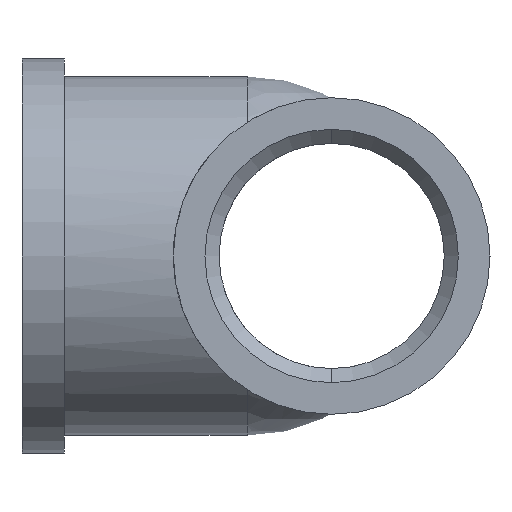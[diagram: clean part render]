
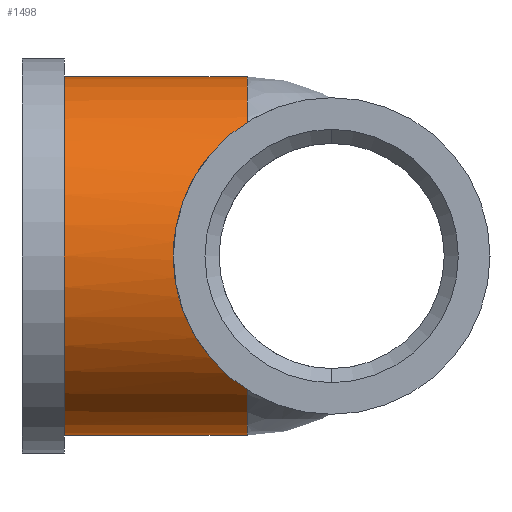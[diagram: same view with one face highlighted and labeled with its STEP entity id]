
A CAD part, left-side view. The second image highlights one B-rep face of the part: STEP entity #1498.
In plain terms, the highlighted cylindrical face has radius 12.75 mm (diameter 25.5 mm), a partial arc.
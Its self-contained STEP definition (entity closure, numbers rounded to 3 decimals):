
#4 = EDGE_CURVE ( 'NONE', #98, #2555, #738, .T. ) ;
#10 = AXIS2_PLACEMENT_3D ( 'NONE', #1318, #2861, #896 ) ;
#26 = CARTESIAN_POINT ( 'NONE',  ( -9.949, 6.442, 7.977 ) ) ;
#33 = CARTESIAN_POINT ( 'NONE',  ( 0., 6., 0. ) ) ;
#80 = CARTESIAN_POINT ( 'NONE',  ( -9.947, 6.44, -7.979 ) ) ;
#87 = DIRECTION ( 'NONE',  ( 0., 1., 0. ) ) ;
#98 = VERTEX_POINT ( 'NONE', #2355 ) ;
#115 = CARTESIAN_POINT ( 'NONE',  ( -12.533, 11.004, 2.366 ) ) ;
#120 = VERTEX_POINT ( 'NONE', #144 ) ;
#130 = CARTESIAN_POINT ( 'NONE',  ( -12.466, 10.928, 2.694 ) ) ;
#134 = ORIENTED_EDGE ( 'NONE', *, *, #821, .T. ) ;
#139 = LINE ( 'NONE', #1096, #1522 ) ;
#144 = CARTESIAN_POINT ( 'NONE',  ( 0., 6., 12.75 ) ) ;
#206 = CARTESIAN_POINT ( 'NONE',  ( -9.809, 6.225, 8.148 ) ) ;
#229 = ORIENTED_EDGE ( 'NONE', *, *, #379, .T. ) ;
#270 = CYLINDRICAL_SURFACE ( 'NONE', #10, 12.75 ) ;
#274 = CIRCLE ( 'NONE', #1557, 12.75 ) ;
#309 = CARTESIAN_POINT ( 'NONE',  ( -12.737, 11.235, 0.672 ) ) ;
#320 = CARTESIAN_POINT ( 'NONE',  ( -11.261, 9.53, 5.987 ) ) ;
#328 = CARTESIAN_POINT ( 'NONE',  ( -10.5, 8.617, -7.233 ) ) ;
#339 = CARTESIAN_POINT ( 'NONE',  ( -11.914, 10.293, 4.588 ) ) ;
#347 = VERTEX_POINT ( 'NONE', #1365 ) ;
#348 = CARTESIAN_POINT ( 'NONE',  ( -12.218, 10.643, 3.661 ) ) ;
#379 = EDGE_CURVE ( 'NONE', #2555, #1765, #2582, .T. ) ;
#405 = LINE ( 'NONE', #1163, #2174 ) ;
#406 = ORIENTED_EDGE ( 'NONE', *, *, #1347, .F. ) ;
#455 = DIRECTION ( 'NONE',  ( 0., 0., -1. ) ) ;
#456 = ORIENTED_EDGE ( 'NONE', *, *, #2351, .T. ) ;
#484 = VERTEX_POINT ( 'NONE', #1694 ) ;
#485 = EDGE_CURVE ( 'NONE', #120, #1599, #811, .T. ) ;
#500 = DIRECTION ( 'NONE',  ( 0., -1., 0. ) ) ;
#508 = EDGE_CURVE ( 'NONE', #1765, #1599, #952, .T. ) ;
#546 = CARTESIAN_POINT ( 'NONE',  ( -11.116, 9.36, -6.274 ) ) ;
#558 = CARTESIAN_POINT ( 'NONE',  ( -12.302, 10.74, -3.367 ) ) ;
#573 = CARTESIAN_POINT ( 'NONE',  ( -12.01, 10.404, -4.294 ) ) ;
#610 = AXIS2_PLACEMENT_3D ( 'NONE', #2104, #2092, #787 ) ;
#624 = VECTOR ( 'NONE', #2168, 1000. ) ;
#697 = VERTEX_POINT ( 'NONE', #767 ) ;
#705 = CARTESIAN_POINT ( 'NONE',  ( -10.225, 6.861, -7.62 ) ) ;
#715 = CARTESIAN_POINT ( 'NONE',  ( -9.67, 6., 8.31 ) ) ;
#727 = FACE_OUTER_BOUND ( 'NONE', #1119, .T. ) ;
#732 = VERTEX_POINT ( 'NONE', #1005 ) ;
#738 = B_SPLINE_CURVE_WITH_KNOTS ( 'NONE', 3,
 ( #328, #2551, #546, #2763, #805, #793, #573, #2081, #558, #1011, #2539, #765, #1234, #2319, #309, #2088, #1452, #115, #130, #1666, #348, #339, #2728, #320, #996, #774, #1418, #1879 ),
 .UNSPECIFIED., .F., .F.,
 ( 4, 2, 2, 2, 2, 2, 2, 2, 2, 2, 2, 2, 2, 4 ),
 ( 0.049, 0.051, 0.052, 0.053, 0.054, 0.055, 0.057, 0.058, 0.059, 0.06, 0.061, 0.063, 0.064, 0.065 ),
 .UNSPECIFIED. ) ;
#765 = CARTESIAN_POINT ( 'NONE',  ( -12.693, 11.186, -1.382 ) ) ;
#767 = CARTESIAN_POINT ( 'NONE',  ( -10.5, 7.263, -7.233 ) ) ;
#774 = CARTESIAN_POINT ( 'NONE',  ( -10.815, 8.999, 6.759 ) ) ;
#787 = DIRECTION ( 'NONE',  ( 0., 0., -1. ) ) ;
#793 = CARTESIAN_POINT ( 'NONE',  ( -11.898, 10.275, -4.592 ) ) ;
#799 = EDGE_CURVE ( 'NONE', #484, #732, #2101, .T. ) ;
#805 = CARTESIAN_POINT ( 'NONE',  ( -11.657, 9.994, -5.175 ) ) ;
#811 = CIRCLE ( 'NONE', #1895, 12.75 ) ;
#821 = EDGE_CURVE ( 'NONE', #697, #98, #2720, .T. ) ;
#896 = DIRECTION ( 'NONE',  ( 0., 0., -1. ) ) ;
#897 = CARTESIAN_POINT ( 'NONE',  ( -10.5, 7.263, 7.233 ) ) ;
#922 = CARTESIAN_POINT ( 'NONE',  ( -10.5, 0., 7.233 ) ) ;
#926 = CARTESIAN_POINT ( 'NONE',  ( -10.364, 7.067, 7.43 ) ) ;
#932 = CARTESIAN_POINT ( 'NONE',  ( -10.5, 7.263, -7.233 ) ) ;
#952 = B_SPLINE_CURVE_WITH_KNOTS ( 'NONE', 3,
 ( #897, #926, #1972, #26, #206, #1332 ),
 .UNSPECIFIED., .F., .F.,
 ( 4, 2, 4 ),
 ( 0.059, 0.06, 0.061 ),
 .UNSPECIFIED. ) ;
#961 = EDGE_CURVE ( 'NONE', #2476, #347, #274, .T. ) ;
#996 = CARTESIAN_POINT ( 'NONE',  ( -11.116, 9.358, 6.252 ) ) ;
#1005 = CARTESIAN_POINT ( 'NONE',  ( 0., 6., -12.75 ) ) ;
#1011 = CARTESIAN_POINT ( 'NONE',  ( -12.46, 10.921, -2.722 ) ) ;
#1021 = B_SPLINE_CURVE_WITH_KNOTS ( 'NONE', 3,
 ( #2451, #2231, #80, #705, #2242, #932 ),
 .UNSPECIFIED., .F., .F.,
 ( 4, 2, 4 ),
 ( 0.041, 0.042, 0.043 ),
 .UNSPECIFIED. ) ;
#1096 = CARTESIAN_POINT ( 'NONE',  ( 0., 0., -12.75 ) ) ;
#1119 = EDGE_LOOP ( 'NONE', ( #406, #1834, #1933, #2828, #456, #134, #2632, #229, #1227, #1719 ) ) ;
#1120 = VECTOR ( 'NONE', #87, 1000. ) ;
#1160 = CARTESIAN_POINT ( 'NONE',  ( -10.5, 8.617, 7.233 ) ) ;
#1163 = CARTESIAN_POINT ( 'NONE',  ( 0., 0., 12.75 ) ) ;
#1193 = EDGE_CURVE ( 'NONE', #347, #732, #139, .T. ) ;
#1218 = CARTESIAN_POINT ( 'NONE',  ( -10.5, 0., -7.233 ) ) ;
#1227 = ORIENTED_EDGE ( 'NONE', *, *, #508, .T. ) ;
#1234 = CARTESIAN_POINT ( 'NONE',  ( -12.749, 11.249, -0.704 ) ) ;
#1318 = CARTESIAN_POINT ( 'NONE',  ( 0., 0., 0. ) ) ;
#1332 = CARTESIAN_POINT ( 'NONE',  ( -9.67, 6., 8.31 ) ) ;
#1347 = EDGE_CURVE ( 'NONE', #2476, #120, #405, .T. ) ;
#1365 = CARTESIAN_POINT ( 'NONE',  ( 0., 19., -12.75 ) ) ;
#1418 = CARTESIAN_POINT ( 'NONE',  ( -10.66, 8.812, 7.001 ) ) ;
#1452 = CARTESIAN_POINT ( 'NONE',  ( -12.641, 11.126, 1.699 ) ) ;
#1498 = ADVANCED_FACE ( 'NONE', ( #727 ), #270, .T. ) ;
#1522 = VECTOR ( 'NONE', #1525, 1000. ) ;
#1525 = DIRECTION ( 'NONE',  ( 0., -1., 0. ) ) ;
#1557 = AXIS2_PLACEMENT_3D ( 'NONE', #1838, #500, #2722 ) ;
#1599 = VERTEX_POINT ( 'NONE', #715 ) ;
#1666 = CARTESIAN_POINT ( 'NONE',  ( -12.309, 10.748, 3.341 ) ) ;
#1694 = CARTESIAN_POINT ( 'NONE',  ( -9.67, 6., -8.31 ) ) ;
#1719 = ORIENTED_EDGE ( 'NONE', *, *, #485, .F. ) ;
#1765 = VERTEX_POINT ( 'NONE', #1830 ) ;
#1767 = DIRECTION ( 'NONE',  ( 0., -1., 0. ) ) ;
#1830 = CARTESIAN_POINT ( 'NONE',  ( -10.5, 7.263, 7.233 ) ) ;
#1834 = ORIENTED_EDGE ( 'NONE', *, *, #961, .T. ) ;
#1838 = CARTESIAN_POINT ( 'NONE',  ( 0., 19., 0. ) ) ;
#1867 = CARTESIAN_POINT ( 'NONE',  ( 0., 19., 12.75 ) ) ;
#1879 = CARTESIAN_POINT ( 'NONE',  ( -10.5, 8.617, 7.233 ) ) ;
#1895 = AXIS2_PLACEMENT_3D ( 'NONE', #33, #2213, #455 ) ;
#1933 = ORIENTED_EDGE ( 'NONE', *, *, #1193, .T. ) ;
#1972 = CARTESIAN_POINT ( 'NONE',  ( -10.226, 6.863, 7.618 ) ) ;
#2081 = CARTESIAN_POINT ( 'NONE',  ( -12.211, 10.636, -3.681 ) ) ;
#2088 = CARTESIAN_POINT ( 'NONE',  ( -12.682, 11.173, 1.361 ) ) ;
#2092 = DIRECTION ( 'NONE',  ( 0., -1., 0. ) ) ;
#2101 = CIRCLE ( 'NONE', #610, 12.75 ) ;
#2104 = CARTESIAN_POINT ( 'NONE',  ( 0., 6., 0. ) ) ;
#2168 = DIRECTION ( 'NONE',  ( 0., -1., 0. ) ) ;
#2174 = VECTOR ( 'NONE', #1767, 1000. ) ;
#2213 = DIRECTION ( 'NONE',  ( 0., -1., 0. ) ) ;
#2231 = CARTESIAN_POINT ( 'NONE',  ( -9.808, 6.223, -8.149 ) ) ;
#2242 = CARTESIAN_POINT ( 'NONE',  ( -10.363, 7.065, -7.431 ) ) ;
#2319 = CARTESIAN_POINT ( 'NONE',  ( -12.75, 11.251, 0.325 ) ) ;
#2351 = EDGE_CURVE ( 'NONE', #484, #697, #1021, .T. ) ;
#2355 = CARTESIAN_POINT ( 'NONE',  ( -10.5, 8.617, -7.233 ) ) ;
#2451 = CARTESIAN_POINT ( 'NONE',  ( -9.67, 6., -8.31 ) ) ;
#2476 = VERTEX_POINT ( 'NONE', #1867 ) ;
#2539 = CARTESIAN_POINT ( 'NONE',  ( -12.529, 10.999, -2.389 ) ) ;
#2551 = CARTESIAN_POINT ( 'NONE',  ( -10.818, 9.004, -6.772 ) ) ;
#2555 = VERTEX_POINT ( 'NONE', #1160 ) ;
#2582 = LINE ( 'NONE', #922, #624 ) ;
#2632 = ORIENTED_EDGE ( 'NONE', *, *, #4, .T. ) ;
#2720 = LINE ( 'NONE', #1218, #1120 ) ;
#2722 = DIRECTION ( 'NONE',  ( 0., 0., -1. ) ) ;
#2728 = CARTESIAN_POINT ( 'NONE',  ( -11.672, 10.013, 5.168 ) ) ;
#2763 = CARTESIAN_POINT ( 'NONE',  ( -11.526, 9.842, -5.459 ) ) ;
#2828 = ORIENTED_EDGE ( 'NONE', *, *, #799, .F. ) ;
#2861 = DIRECTION ( 'NONE',  ( 0., -1., 0. ) ) ;
